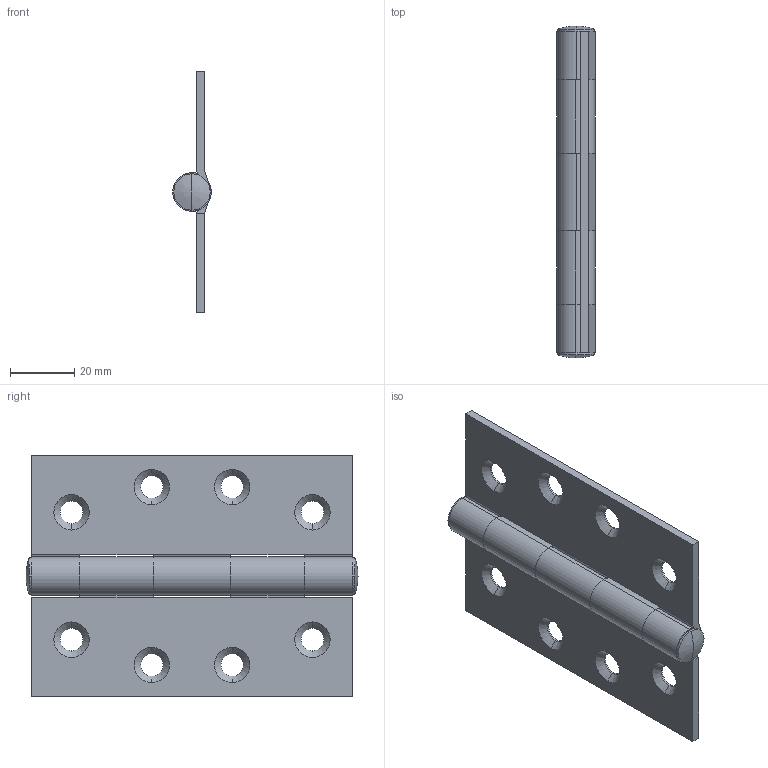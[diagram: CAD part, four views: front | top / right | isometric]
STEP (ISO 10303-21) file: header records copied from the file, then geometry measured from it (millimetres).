
FILE_DESCRIPTION (( 'STEP AP203' ), '1' );
FILE_NAME ('81149.STEP', '2020-05-26T16:39:29', ( '' ), ( '' ), 'SwSTEP 2.0', 'SolidWorks 2016', '' );
FILE_SCHEMA (( 'CONFIG_CONTROL_DESIGN' ));
Length unit declared in the file: millimetre
Products named in the file (4): Pin; 81149_part_Cover_2; 81149_part; 81149
Assembly tree (3 placements, depth 2):
  81149
    81149_part_Cover_2
    81149_part
    Pin
Bounding box: 12 x 103.34 x 75 mm (x, y, z)
Volume: 25869 mm3; surface area: 22742.8 mm2
Topology: 3 solids, 3 shells, 112 faces, 286 edges, 178 vertices
Faces by surface type: cylinder 52, plane 40, cone 16, bspline 4
Entity records: 3844 total; most frequent: CARTESIAN_POINT 630, DIRECTION 630, ORIENTED_EDGE 564, EDGE_CURVE 282, AXIS2_PLACEMENT_3D 238, VERTEX_POINT 178, VECTOR 154, LINE 154
